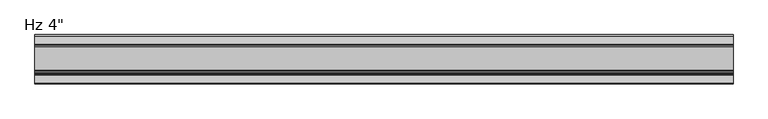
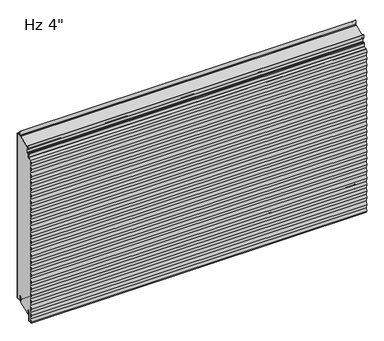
"""IFC4 building model written with IfcOpenShell, lengths in millimetres: plate geometry."""

from ifc_helpers import new_model, si_unit, point, frame, frame_2d, origin, place, context, project, spatial, polyline, circle_curve, ellipse_curve, trimmed, segment, composite_curve, outline, extrude, source, transform, mapped, element, save
from ifc_brep_helpers import plane_surface, cylinder_surface, revolved_surface, extruded_surface, advanced_brep


def plate_8af9aa11(model_context):
    return source(origin(), model_context, "Body", "SolidModel", [
        extrude(outline(composite_curve([segment(trimmed(circle_curve(frame_2d((-21.43125, 19.05)), 4.96875), [point((-16.4625, 19.05))], [point((-26.4, 19.05))], True, "CARTESIAN"), True, "CONTINUOUS"), segment(polyline([(-26.4, 19.05), (-26.4, -3.1323422), (-74.6157227, -23.01875), (-76.2, -23.01875), (-76.2, -13.5080174), (-76.99375, -13.5080174), (-76.7875, -11.9205174)]), True, "CONTINUOUS"), segment(trimmed(circle_curve(frame_2d((-81.75625, -11.9205174)), 4.96875), [point((-76.7875, -11.9205174))], [point((-86.725, -11.9205174))], True, "CARTESIAN"), True, "CONTINUOUS"), segment(polyline([(-86.725, -11.9205174), (-86.725, -50.1038221)]), True, "CONTINUOUS"), segment(trimmed(circle_curve(frame_2d((-88.10625, -50.1038221)), 1.38125), [point((-86.725, -50.1038221))], [point((-88.033961, -51.4831791))], False, "CARTESIAN"), True, "CONTINUOUS"), segment(polyline([(-88.033961, -51.4831791), (-101.2062471, -52.1735094), (-101.7378194, -48.8511825), (-99.2994194, -33.6111825), (-101.7378194, -18.3711825), (-99.2994194, -3.1311825), (-101.7378194, 12.1088175), (-99.2994194, 27.3488175), (-101.7378194, 42.5888175), (-99.2994194, 57.8288175), (-101.7378194, 73.0688175), (-99.2994194, 88.3088175), (-101.7378194, 103.5488175), (-99.2994194, 118.7888175), (-101.7378194, 134.0288175), (-99.2994194, 149.2688175), (-101.7378194, 164.5088175), (-99.2994194, 179.7488175), (-101.7378194, 194.9888175), (-99.2994194, 210.2288175), (-101.7378194, 225.4688175), (-99.2994194, 240.7088175), (-101.7378194, 255.9488175), (-99.2994194, 271.1888175), (-101.7378194, 286.4288175), (-99.2994194, 301.6688175), (-101.7378194, 316.9088175), (-99.2994194, 332.1488175), (-101.7378194, 347.3888175), (-99.2994194, 362.6288175), (-101.7378194, 377.8688175), (-99.2994194, 393.1088175), (-101.7378194, 408.3488175), (-99.2994194, 423.5888175), (-101.7378194, 438.8288175), (-99.2994194, 454.0688175), (-101.7378194, 469.3088175), (-99.2994194, 484.5488175), (-101.7378194, 499.7888175), (-99.2994194, 515.0288175), (-101.7378194, 530.2688175), (-99.2994194, 545.5088175), (-101.7378194, 560.7488175), (-99.2994194, 575.9888175), (-101.7378194, 591.2288175), (-99.2994194, 606.4688175), (-101.7378194, 621.7088175), (-99.2994194, 636.9488175), (-101.7378194, 652.1888175), (-99.2994194, 667.4288175), (-101.7378194, 682.6688175), (-99.7326745, 695.2009726), (-85.5895807, 695.9421807)]), True, "CONTINUOUS"), segment(trimmed(circle_curve(frame_2d((-85.725, 698.5261347)), 2.5875), [point((-85.5895807, 695.9421807))], [point((-83.1375, 698.5261347))], True, "CARTESIAN"), True, "CONTINUOUS"), segment(polyline([(-83.1375, 698.5261347), (-83.1375, 712.6824411)]), True, "CONTINUOUS"), segment(trimmed(circle_curve(frame_2d((-81.75625, 712.6824411)), 1.38125), [point((-83.1375, 712.6824411))], [point((-81.828539, 714.0617981))], False, "CARTESIAN"), True, "CONTINUOUS"), segment(polyline([(-81.828539, 714.0617981), (-76.0645807, 714.3638744)]), True, "CONTINUOUS"), segment(trimmed(circle_curve(frame_2d((-76.2, 716.9478283)), 2.5875), [point((-76.0645807, 714.3638744))], [point((-73.6125, 716.9478283))], True, "CARTESIAN"), True, "CONTINUOUS"), segment(polyline([(-73.6125, 716.9478283), (-73.6125, 739.3892934), (-24.9057308, 760.20625), (-2.38125, 760.20625)]), True, "CONTINUOUS"), segment(trimmed(circle_curve(frame_2d((-2.38125, 758.825)), 1.38125), [point((-2.38125, 760.20625))], [point((-1.0, 758.825))], False, "CARTESIAN"), True, "CONTINUOUS"), segment(polyline([(-1.0, 758.825), (-1.0, 3.175)]), True, "CONTINUOUS"), segment(trimmed(circle_curve(frame_2d((-2.38125, 3.175)), 1.38125), [point((-1.0, 3.175))], [point((-2.38125, 1.79375))], False, "CARTESIAN"), True, "CONTINUOUS"), segment(polyline([(-2.38125, 1.79375), (-15.08125, 1.79375)]), True, "CONTINUOUS"), segment(trimmed(circle_curve(frame_2d((-15.08125, 3.175)), 1.38125), [point((-15.08125, 1.79375))], [point((-16.4625, 3.175))], False, "CARTESIAN"), True, "CONTINUOUS"), segment(polyline([(-16.4625, 3.175), (-16.4625, 19.05)]), True, "CONTINUOUS")], self_intersect=False)), frame((-730.0, 0.0, 0.0), z_axis=(1.0, 0.0, 0.0), x_axis=(0.0, 1.0, 0.0)), (0.0, 0.0, 1.0), 1460.0),
        extrude(outline(composite_curve([segment(polyline([(-25.4, 0.79375), (-26.4, 0.79375), (-26.4, 19.05)]), True, "CONTINUOUS"), segment(trimmed(circle_curve(frame_2d((-21.43125, 19.05)), 4.96875), [point((-26.4, 19.05))], [point((-16.4625, 19.05))], False, "CARTESIAN"), True, "CONTINUOUS"), segment(polyline([(-16.4625, 19.05), (-16.4625, 3.175)]), True, "CONTINUOUS"), segment(trimmed(circle_curve(frame_2d((-15.08125, 3.175)), 1.38125), [point((-16.4625, 3.175))], [point((-15.08125, 1.79375))], True, "CARTESIAN"), True, "CONTINUOUS"), segment(polyline([(-15.08125, 1.79375), (-2.38125, 1.79375)]), True, "CONTINUOUS"), segment(trimmed(circle_curve(frame_2d((-2.38125, 3.175)), 1.38125), [point((-2.38125, 1.79375))], [point((-1.0, 3.175))], True, "CARTESIAN"), True, "CONTINUOUS"), segment(polyline([(-1.0, 3.175), (-1.0, 758.825)]), True, "CONTINUOUS"), segment(trimmed(circle_curve(frame_2d((-2.38125, 758.825)), 1.38125), [point((-1.0, 758.825))], [point((-2.38125, 760.20625))], True, "CARTESIAN"), True, "CONTINUOUS"), segment(polyline([(-2.38125, 760.20625), (-19.446875, 760.20625)]), True, "CONTINUOUS"), segment(trimmed(circle_curve(frame_2d((-19.446875, 762.79375)), 2.5875), [point((-19.446875, 760.20625))], [point((-22.034375, 762.79375))], False, "CARTESIAN"), True, "CONTINUOUS"), segment(polyline([(-22.034375, 762.79375), (-22.034375, 780.25625), (-21.034375, 780.25625), (-21.034375, 762.79375)]), True, "CONTINUOUS"), segment(trimmed(circle_curve(frame_2d((-19.446875, 762.79375)), 1.5875), [point((-21.034375, 762.79375))], [point((-19.446875, 761.20625))], True, "CARTESIAN"), True, "CONTINUOUS"), segment(polyline([(-19.446875, 761.20625), (-2.38125, 761.20625)]), True, "CONTINUOUS"), segment(trimmed(circle_curve(frame_2d((-2.38125, 758.825)), 2.38125), [point((-2.38125, 761.20625))], [point((0.0, 758.825))], False, "CARTESIAN"), True, "CONTINUOUS"), segment(polyline([(0.0, 758.825), (0.0, 3.175)]), True, "CONTINUOUS"), segment(trimmed(circle_curve(frame_2d((-2.38125, 3.175)), 2.38125), [point((0.0, 3.175))], [point((-2.38125, 0.79375))], False, "CARTESIAN"), True, "CONTINUOUS"), segment(polyline([(-2.38125, 0.79375), (-15.08125, 0.79375)]), True, "CONTINUOUS"), segment(trimmed(circle_curve(frame_2d((-15.08125, 3.175)), 2.38125), [point((-15.08125, 0.79375))], [point((-17.4625, 3.175))], False, "CARTESIAN"), True, "CONTINUOUS"), segment(polyline([(-17.4625, 3.175), (-17.4625, 19.05)]), True, "CONTINUOUS"), segment(trimmed(circle_curve(frame_2d((-21.43125, 19.05)), 3.96875), [point((-17.4625, 19.05))], [point((-25.4, 19.05))], True, "CARTESIAN"), True, "CONTINUOUS"), segment(polyline([(-25.4, 19.05), (-25.4, 0.79375)]), True, "CONTINUOUS")], self_intersect=False)), frame((-730.0, 0.0, 0.0), z_axis=(1.0, 0.0, 0.0), x_axis=(0.0, 1.0, 0.0)), (0.0, 0.0, 1.0), 1460.0),
        advanced_brep(
        [(-730.0, -76.2, -23.2314549), (-730.0, -77.7875, -23.2314549), (-730.0, -77.7875, -11.9205174), (-730.0, -85.725, -11.9205174), (-730.0, -85.725, -50.1038221), (-730.0, -87.981625, -52.4818086), (-730.0, -102.1543553, -53.22457), (-730.0, -102.8509395, -48.8709186), (-730.0, -100.4125395, -33.6309186), (-730.0, -102.8509395, -18.3909186), (-730.0, -100.4125395, -3.1509186), (-730.0, -102.8509395, 12.0890814), (-730.0, -100.4125395, 27.3290814), (-730.0, -102.8509395, 42.5690814), (-730.0, -100.4125395, 57.8090814), (-730.0, -102.8509395, 73.0490814), (-730.0, -100.4125395, 88.2890814), (-730.0, -102.8509395, 103.5290814), (-730.0, -100.4125395, 118.7690814), (-730.0, -102.8509395, 134.0090814), (-730.0, -100.4125395, 149.2490814), (-730.0, -102.8509395, 164.4890814), (-730.0, -100.4125395, 179.7290814), (-730.0, -102.8509395, 194.9690814), (-730.0, -100.4125395, 210.2090814), (-730.0, -102.8509395, 225.4490814), (-730.0, -100.4125395, 240.6890814), (-730.0, -102.8509395, 255.9290814), (-730.0, -100.4125395, 271.1690814), (-730.0, -102.8509395, 286.4090814), (-730.0, -100.4125395, 301.6490814), (-730.0, -102.8509395, 316.8890814), (-730.0, -100.4125395, 332.1290814), (-730.0, -102.8509395, 347.3690814), (-730.0, -100.4125395, 362.6090814), (-730.0, -102.8509395, 377.8490814), (-730.0, -100.4125395, 393.0890814), (-730.0, -102.8509395, 408.3290814), (-730.0, -100.4125395, 423.5690814), (-730.0, -102.8509395, 438.8090814), (-730.0, -100.4125395, 454.0490814), (-730.0, -102.8509395, 469.2890814), (-730.0, -100.4125395, 484.5290814), (-730.0, -102.8509395, 499.7690814), (-730.0, -100.4125395, 515.0090814), (-730.0, -102.8509395, 530.2490814), (-730.0, -100.4125395, 545.4890814), (-730.0, -102.8509395, 560.7290814), (-730.0, -100.4125395, 575.9690814), (-730.0, -102.8509395, 591.2090814), (-730.0, -100.4125395, 606.4490814), (-730.0, -102.8509395, 621.6890814), (-730.0, -100.4125395, 636.9290814), (-730.0, -102.8509395, 652.1690814), (-730.0, -100.4125395, 667.4090814), (-730.0, -102.8428368, 682.5984395), (-730.0, -100.674106, 696.1530066), (-730.0, -85.6419167, 696.9408103), (-730.0, -84.1375, 698.5261347), (-730.0, -84.1375, 712.6824411), (-730.0, -81.880875, 715.0604276), (-730.0, -76.1169167, 715.3625039), (-730.0, -74.6125, 716.9478283), (-730.0, -74.6125, 731.8232326), (-730.0, -76.2, 733.4107326), (-730.0, -80.3671875, 733.4107326), (-730.0, -82.7484375, 735.7919826), (-730.0, -82.7484375, 750.2836032), (-730.0, -80.9546875, 750.2836032), (-730.0, -80.9546875, 740.5544826), (-730.0, -81.7484375, 740.5544826), (-730.0, -81.7484375, 735.7919826), (-730.0, -80.3671875, 734.4107326), (-730.0, -76.2, 734.4107326), (-730.0, -73.6125, 731.8232326), (-730.0, -73.6125, 716.9478283), (-730.0, -76.0645807, 714.3638744), (-730.0, -81.828539, 714.0617981), (-730.0, -83.1375, 712.6824411), (-730.0, -83.1375, 698.5261347), (-730.0, -85.5895807, 695.9421807), (-730.0, -99.8143976, 695.1966897), (-730.0, -101.8301177, 682.5984395), (-730.0, -99.3998204, 667.4090814), (-730.0, -101.8382204, 652.1690814), (-730.0, -99.3998204, 636.9290814), (-730.0, -101.8382204, 621.6890814), (-730.0, -99.3998204, 606.4490814), (-730.0, -101.8382204, 591.2090814), (-730.0, -99.3998204, 575.9690814), (-730.0, -101.8382204, 560.7290814), (-730.0, -99.3998204, 545.4890814), (-730.0, -101.8382204, 530.2490814), (-730.0, -99.3998204, 515.0090814), (-730.0, -101.8382204, 499.7690814), (-730.0, -99.3998204, 484.5290814), (-730.0, -101.8382204, 469.2890814), (-730.0, -99.3998204, 454.0490814), (-730.0, -101.8382204, 438.8090814), (-730.0, -99.3998204, 423.5690814), (-730.0, -101.8382204, 408.3290814), (-730.0, -99.3998204, 393.0890814), (-730.0, -101.8382204, 377.8490814), (-730.0, -99.3998204, 362.6090814), (-730.0, -101.8382204, 347.3690814), (-730.0, -99.3998204, 332.1290814), (-730.0, -101.8382204, 316.8890814), (-730.0, -99.3998204, 301.6490814), (-730.0, -101.8382204, 286.4090814), (-730.0, -99.3998204, 271.1690814), (-730.0, -101.8382204, 255.9290814), (-730.0, -99.3998204, 240.6890814), (-730.0, -101.8382204, 225.4490814), (-730.0, -99.3998204, 210.2090814), (-730.0, -101.8382204, 194.9690814), (-730.0, -99.3998204, 179.7290814), (-730.0, -101.8382204, 164.4890814), (-730.0, -99.3998204, 149.2490814), (-730.0, -101.8382204, 134.0090814), (-730.0, -99.3998204, 118.7690814), (-730.0, -101.8382204, 103.5290814), (-730.0, -99.3998204, 88.2890814), (-730.0, -101.8382204, 73.0490814), (-730.0, -99.3998204, 57.8090814), (-730.0, -101.8382204, 42.5690814), (-730.0, -99.3998204, 27.3290814), (-730.0, -101.8382204, 12.0890814), (-730.0, -99.3998204, -3.1509186), (-730.0, -101.8382204, -18.3909186), (-730.0, -99.3998204, -33.6309186), (-730.0, -101.8382204, -48.8709186), (-730.0, -101.3089447, -52.1788915), (-730.0, -88.033961, -51.4831791), (-730.0, -86.725, -50.1038221), (-730.0, -86.725, -11.9205174), (-730.0, -76.7875, -11.9205174), (-730.0, -76.99375, -13.5080174), (-730.0, -76.2, -13.5080174), (730.0, -76.2, -23.2314549), (730.0, -76.2, -13.5080174), (730.0, -76.99375, -13.5080174), (730.0, -76.7875, -11.9205174), (730.0, -86.725, -11.9205174), (730.0, -86.725, -50.1038221), (730.0, -88.033961, -51.4831791), (730.0, -101.3089447, -52.1788915), (730.0, -101.8382204, -48.8709186), (730.0, -99.3998204, -33.6309186), (730.0, -101.8382204, -18.3909186), (730.0, -99.3998204, -3.1509186), (730.0, -101.8382204, 12.0890814), (730.0, -99.3998204, 27.3290814), (730.0, -101.8382204, 42.5690814), (730.0, -99.3998204, 57.8090814), (730.0, -101.8382204, 73.0490814), (730.0, -99.3998204, 88.2890814), (730.0, -101.8382204, 103.5290814), (730.0, -99.3998204, 118.7690814), (730.0, -101.8382204, 134.0090814), (730.0, -99.3998204, 149.2490814), (730.0, -101.8382204, 164.4890814), (730.0, -99.3998204, 179.7290814), (730.0, -101.8382204, 194.9690814), (730.0, -99.3998204, 210.2090814), (730.0, -101.8382204, 225.4490814), (730.0, -99.3998204, 240.6890814), (730.0, -101.8382204, 255.9290814), (730.0, -99.3998204, 271.1690814), (730.0, -101.8382204, 286.4090814), (730.0, -99.3998204, 301.6490814), (730.0, -101.8382204, 316.8890814), (730.0, -99.3998204, 332.1290814), (730.0, -101.8382204, 347.3690814), (730.0, -99.3998204, 362.6090814), (730.0, -101.8382204, 377.8490814), (730.0, -99.3998204, 393.0890814), (730.0, -101.8382204, 408.3290814), (730.0, -99.3998204, 423.5690814), (730.0, -101.8382204, 438.8090814), (730.0, -99.3998204, 454.0490814), (730.0, -101.8382204, 469.2890814), (730.0, -99.3998204, 484.5290814), (730.0, -101.8382204, 499.7690814), (730.0, -99.3998204, 515.0090814), (730.0, -101.8382204, 530.2490814), (730.0, -99.3998204, 545.4890814), (730.0, -101.8382204, 560.7290814), (730.0, -99.3998204, 575.9690814), (730.0, -101.8382204, 591.2090814), (730.0, -99.3998204, 606.4490814), (730.0, -101.8382204, 621.6890814), (730.0, -99.3998204, 636.9290814), (730.0, -101.8382204, 652.1690814), (730.0, -99.3998204, 667.4090814), (730.0, -101.8301177, 682.5984395), (730.0, -99.8143976, 695.1966897), (730.0, -85.5895807, 695.9421807), (730.0, -83.1375, 698.5261347), (730.0, -83.1375, 712.6824411), (730.0, -81.828539, 714.0617981), (730.0, -76.0645807, 714.3638744), (730.0, -73.6125, 716.9478283), (730.0, -73.6125, 731.8232326), (730.0, -76.2, 734.4107326), (730.0, -80.3671875, 734.4107326), (730.0, -81.7484375, 735.7919826), (730.0, -81.7484375, 740.5544826), (730.0, -80.9546875, 740.5544826), (730.0, -80.9546875, 750.2836032), (730.0, -82.7484375, 750.2836032), (730.0, -82.7484375, 735.7919826), (730.0, -80.3671875, 733.4107326), (730.0, -76.2, 733.4107326), (730.0, -74.6125, 731.8232326), (730.0, -74.6125, 716.9478283), (730.0, -76.1169167, 715.3625039), (730.0, -81.880875, 715.0604276), (730.0, -84.1375, 712.6824411), (730.0, -84.1375, 698.5261347), (730.0, -85.6419167, 696.9408103), (730.0, -100.674106, 696.1530066), (730.0, -102.8428368, 682.5984395), (730.0, -100.4125395, 667.4090814), (730.0, -102.8509395, 652.1690814), (730.0, -100.4125395, 636.9290814), (730.0, -102.8509395, 621.6890814), (730.0, -100.4125395, 606.4490814), (730.0, -102.8509395, 591.2090814), (730.0, -100.4125395, 575.9690814), (730.0, -102.8509395, 560.7290814), (730.0, -100.4125395, 545.4890814), (730.0, -102.8509395, 530.2490814), (730.0, -100.4125395, 515.0090814), (730.0, -102.8509395, 499.7690814), (730.0, -100.4125395, 484.5290814), (730.0, -102.8509395, 469.2890814), (730.0, -100.4125395, 454.0490814), (730.0, -102.8509395, 438.8090814), (730.0, -100.4125395, 423.5690814), (730.0, -102.8509395, 408.3290814), (730.0, -100.4125395, 393.0890814), (730.0, -102.8509395, 377.8490814), (730.0, -100.4125395, 362.6090814), (730.0, -102.8509395, 347.3690814), (730.0, -100.4125395, 332.1290814), (730.0, -102.8509395, 316.8890814), (730.0, -100.4125395, 301.6490814), (730.0, -102.8509395, 286.4090814), (730.0, -100.4125395, 271.1690814), (730.0, -102.8509395, 255.9290814), (730.0, -100.4125395, 240.6890814), (730.0, -102.8509395, 225.4490814), (730.0, -100.4125395, 210.2090814), (730.0, -102.8509395, 194.9690814), (730.0, -100.4125395, 179.7290814), (730.0, -102.8509395, 164.4890814), (730.0, -100.4125395, 149.2490814), (730.0, -102.8509395, 134.0090814), (730.0, -100.4125395, 118.7690814), (730.0, -102.8509395, 103.5290814), (730.0, -100.4125395, 88.2890814), (730.0, -102.8509395, 73.0490814), (730.0, -100.4125395, 57.8090814), (730.0, -102.8509395, 42.5690814), (730.0, -100.4125395, 27.3290814), (730.0, -102.8509395, 12.0890814), (730.0, -100.4125395, -3.1509186), (730.0, -102.8509395, -18.3909186), (730.0, -100.4125395, -33.6309186), (730.0, -102.8509395, -48.8709186), (730.0, -102.1543553, -53.22457), (730.0, -87.981625, -52.4818086), (730.0, -85.725, -50.1038221), (730.0, -85.725, -11.9205174), (730.0, -77.7875, -11.9205174), (730.0, -77.7875, -23.2314549)],
        [
            (0, 1, circle_curve(frame((-730.0, -76.99375, -23.2314549), z_axis=(-1.0, 0.0, 0.0), x_axis=(0.0, 0.0, -1.0)), 0.79375)),
            (1, 2),
            (2, 3, circle_curve(frame((-730.0, -81.75625, -11.9205174), z_axis=(1.0, 0.0, 0.0), x_axis=(0.0, 0.0, -1.0)), 3.96875)),
            (3, 4),
            (4, 5, circle_curve(frame((-730.0, -88.10625, -50.1038221), z_axis=(-1.0, 0.0, 0.0), x_axis=(0.0, 0.0, -1.0)), 2.38125)),
            (5, 6),
            (6, 7),
            (7, 8),
            (8, 9),
            (9, 10),
            (10, 11),
            (11, 12),
            (12, 13),
            (13, 14),
            (14, 15),
            (15, 16),
            (16, 17),
            (17, 18),
            (18, 19),
            (19, 20),
            (20, 21),
            (21, 22),
            (22, 23),
            (23, 24),
            (24, 25),
            (25, 26),
            (26, 27),
            (27, 28),
            (28, 29),
            (29, 30),
            (30, 31),
            (31, 32),
            (32, 33),
            (33, 34),
            (34, 35),
            (35, 36),
            (36, 37),
            (37, 38),
            (38, 39),
            (39, 40),
            (40, 41),
            (41, 42),
            (42, 43),
            (43, 44),
            (44, 45),
            (45, 46),
            (46, 47),
            (47, 48),
            (48, 49),
            (49, 50),
            (50, 51),
            (51, 52),
            (52, 53),
            (53, 54),
            (54, 55),
            (55, 56),
            (56, 57),
            (57, 58, circle_curve(frame((-730.0, -85.725, 698.5261347), z_axis=(1.0, 0.0, 0.0), x_axis=(0.0, 0.0, -1.0)), 1.5875)),
            (58, 59),
            (59, 60, circle_curve(frame((-730.0, -81.75625, 712.6824411), z_axis=(-1.0, 0.0, 0.0), x_axis=(0.0, 0.0, -1.0)), 2.38125)),
            (60, 61),
            (61, 62, circle_curve(frame((-730.0, -76.2, 716.9478283), z_axis=(1.0, 0.0, 0.0), x_axis=(0.0, 0.0, -1.0)), 1.5875)),
            (62, 63),
            (63, 64, circle_curve(frame((-730.0, -76.2, 731.8232326), z_axis=(1.0, 0.0, 0.0), x_axis=(0.0, 0.0, -1.0)), 1.5875)),
            (64, 65),
            (65, 66, circle_curve(frame((-730.0, -80.3671875, 735.7919826), z_axis=(-1.0, 0.0, 0.0), x_axis=(0.0, 0.0, -1.0)), 2.38125)),
            (66, 67),
            (67, 68, ellipse_curve(frame((-730.0, -81.8515625, 750.2836032), z_axis=(-1.0, 0.0, 0.0), x_axis=(0.0, 1.0, 0.0)), 0.896875, 0.7852275)),
            (68, 69),
            (69, 70),
            (70, 71),
            (71, 72, circle_curve(frame((-730.0, -80.3671875, 735.7919826), z_axis=(1.0, 0.0, 0.0), x_axis=(0.0, 0.0, -1.0)), 1.38125)),
            (72, 73),
            (73, 74, circle_curve(frame((-730.0, -76.2, 731.8232326), z_axis=(-1.0, 0.0, 0.0), x_axis=(0.0, 0.0, -1.0)), 2.5875)),
            (74, 75),
            (75, 76, circle_curve(frame((-730.0, -76.2, 716.9478283), z_axis=(-1.0, 0.0, 0.0), x_axis=(0.0, 0.0, -1.0)), 2.5875)),
            (76, 77),
            (77, 78, circle_curve(frame((-730.0, -81.75625, 712.6824411), z_axis=(1.0, 0.0, 0.0), x_axis=(0.0, 0.0, -1.0)), 1.38125)),
            (78, 79),
            (79, 80, circle_curve(frame((-730.0, -85.725, 698.5261347), z_axis=(-1.0, 0.0, 0.0), x_axis=(0.0, 0.0, -1.0)), 2.5875)),
            (80, 81),
            (81, 82),
            (82, 83),
            (83, 84),
            (84, 85),
            (85, 86),
            (86, 87),
            (87, 88),
            (88, 89),
            (89, 90),
            (90, 91),
            (91, 92),
            (92, 93),
            (93, 94),
            (94, 95),
            (95, 96),
            (96, 97),
            (97, 98),
            (98, 99),
            (99, 100),
            (100, 101),
            (101, 102),
            (102, 103),
            (103, 104),
            (104, 105),
            (105, 106),
            (106, 107),
            (107, 108),
            (108, 109),
            (109, 110),
            (110, 111),
            (111, 112),
            (112, 113),
            (113, 114),
            (114, 115),
            (115, 116),
            (116, 117),
            (117, 118),
            (118, 119),
            (119, 120),
            (120, 121),
            (121, 122),
            (122, 123),
            (123, 124),
            (124, 125),
            (125, 126),
            (126, 127),
            (127, 128),
            (128, 129),
            (129, 130),
            (130, 131),
            (131, 132),
            (132, 133, circle_curve(frame((-730.0, -88.10625, -50.1038221), z_axis=(1.0, 0.0, 0.0), x_axis=(0.0, 0.0, -1.0)), 1.38125)),
            (133, 134),
            (134, 135, circle_curve(frame((-730.0, -81.75625, -11.9205174), z_axis=(-1.0, 0.0, 0.0), x_axis=(0.0, 0.0, -1.0)), 4.96875)),
            (135, 136),
            (136, 137),
            (137, 0),
            (138, 139),
            (139, 140),
            (140, 141),
            (141, 142, circle_curve(frame((730.0, -81.75625, -11.9205174), z_axis=(1.0, 0.0, 0.0), x_axis=(0.0, 0.0, -1.0)), 4.96875)),
            (142, 143),
            (143, 144, circle_curve(frame((730.0, -88.10625, -50.1038221), z_axis=(-1.0, 0.0, 0.0), x_axis=(0.0, 0.0, -1.0)), 1.38125)),
            (144, 145),
            (145, 146),
            (146, 147),
            (147, 148),
            (148, 149),
            (149, 150),
            (150, 151),
            (151, 152),
            (152, 153),
            (153, 154),
            (154, 155),
            (155, 156),
            (156, 157),
            (157, 158),
            (158, 159),
            (159, 160),
            (160, 161),
            (161, 162),
            (162, 163),
            (163, 164),
            (164, 165),
            (165, 166),
            (166, 167),
            (167, 168),
            (168, 169),
            (169, 170),
            (170, 171),
            (171, 172),
            (172, 173),
            (173, 174),
            (174, 175),
            (175, 176),
            (176, 177),
            (177, 178),
            (178, 179),
            (179, 180),
            (180, 181),
            (181, 182),
            (182, 183),
            (183, 184),
            (184, 185),
            (185, 186),
            (186, 187),
            (187, 188),
            (188, 189),
            (189, 190),
            (190, 191),
            (191, 192),
            (192, 193),
            (193, 194),
            (194, 195),
            (195, 196),
            (196, 197, circle_curve(frame((730.0, -85.725, 698.5261347), z_axis=(1.0, 0.0, 0.0), x_axis=(0.0, 0.0, -1.0)), 2.5875)),
            (197, 198),
            (198, 199, circle_curve(frame((730.0, -81.75625, 712.6824411), z_axis=(-1.0, 0.0, 0.0), x_axis=(0.0, 0.0, -1.0)), 1.38125)),
            (199, 200),
            (200, 201, circle_curve(frame((730.0, -76.2, 716.9478283), z_axis=(1.0, 0.0, 0.0), x_axis=(0.0, 0.0, -1.0)), 2.5875)),
            (201, 202),
            (202, 203, circle_curve(frame((730.0, -76.2, 731.8232326), z_axis=(1.0, 0.0, 0.0), x_axis=(0.0, 0.0, -1.0)), 2.5875)),
            (203, 204),
            (204, 205, circle_curve(frame((730.0, -80.3671875, 735.7919826), z_axis=(-1.0, 0.0, 0.0), x_axis=(0.0, 0.0, -1.0)), 1.38125)),
            (205, 206),
            (206, 207),
            (207, 208),
            (208, 209, ellipse_curve(frame((730.0, -81.8515625, 750.2836032), z_axis=(1.0, 0.0, 0.0), x_axis=(0.0, 1.0, 0.0)), 0.896875, 0.7852275)),
            (209, 210),
            (210, 211, circle_curve(frame((730.0, -80.3671875, 735.7919826), z_axis=(1.0, 0.0, 0.0), x_axis=(0.0, 0.0, -1.0)), 2.38125)),
            (211, 212),
            (212, 213, circle_curve(frame((730.0, -76.2, 731.8232326), z_axis=(-1.0, 0.0, 0.0), x_axis=(0.0, 0.0, -1.0)), 1.5875)),
            (213, 214),
            (214, 215, circle_curve(frame((730.0, -76.2, 716.9478283), z_axis=(-1.0, 0.0, 0.0), x_axis=(0.0, 0.0, -1.0)), 1.5875)),
            (215, 216),
            (216, 217, circle_curve(frame((730.0, -81.75625, 712.6824411), z_axis=(1.0, 0.0, 0.0), x_axis=(0.0, 0.0, -1.0)), 2.38125)),
            (217, 218),
            (218, 219, circle_curve(frame((730.0, -85.725, 698.5261347), z_axis=(-1.0, 0.0, 0.0), x_axis=(0.0, 0.0, -1.0)), 1.5875)),
            (219, 220),
            (220, 221),
            (221, 222),
            (222, 223),
            (223, 224),
            (224, 225),
            (225, 226),
            (226, 227),
            (227, 228),
            (228, 229),
            (229, 230),
            (230, 231),
            (231, 232),
            (232, 233),
            (233, 234),
            (234, 235),
            (235, 236),
            (236, 237),
            (237, 238),
            (238, 239),
            (239, 240),
            (240, 241),
            (241, 242),
            (242, 243),
            (243, 244),
            (244, 245),
            (245, 246),
            (246, 247),
            (247, 248),
            (248, 249),
            (249, 250),
            (250, 251),
            (251, 252),
            (252, 253),
            (253, 254),
            (254, 255),
            (255, 256),
            (256, 257),
            (257, 258),
            (258, 259),
            (259, 260),
            (260, 261),
            (261, 262),
            (262, 263),
            (263, 264),
            (264, 265),
            (265, 266),
            (266, 267),
            (267, 268),
            (268, 269),
            (269, 270),
            (270, 271),
            (271, 272, circle_curve(frame((730.0, -88.10625, -50.1038221), z_axis=(1.0, 0.0, 0.0), x_axis=(0.0, 0.0, -1.0)), 2.38125)),
            (272, 273),
            (273, 274, circle_curve(frame((730.0, -81.75625, -11.9205174), z_axis=(-1.0, 0.0, 0.0), x_axis=(0.0, 0.0, -1.0)), 3.96875)),
            (274, 275),
            (275, 138, circle_curve(frame((730.0, -76.99375, -23.2314549), z_axis=(1.0, 0.0, 0.0), x_axis=(0.0, 0.0, -1.0)), 0.79375)),
            (118, 158),
            (157, 119),
            (156, 120),
            (155, 121),
            (131, 145),
            (144, 132),
            (143, 133),
            (142, 134),
            (141, 135),
            (136, 140),
            (139, 137),
            (69, 207),
            (206, 70),
            (68, 208),
            (67, 209),
            (56, 220),
            (219, 57),
            (80, 196),
            (195, 81),
            (54, 222),
            (221, 55),
            (82, 194),
            (193, 83),
            (192, 84),
            (191, 85),
            (21, 255),
            (254, 22),
            (253, 23),
            (252, 24),
            (251, 25),
            (250, 26),
            (249, 27),
            (102, 174),
            (173, 103),
            (172, 104),
            (171, 105),
            (170, 106),
            (169, 107),
            (168, 108),
            (167, 109),
            (166, 110),
            (248, 28),
            (247, 29),
            (246, 30),
            (52, 224),
            (223, 53),
            (165, 111),
            (164, 112),
            (163, 113),
            (162, 114),
            (161, 115),
            (160, 116),
            (159, 117),
            (19, 257),
            (256, 20),
            (51, 225),
            (50, 226),
            (190, 86),
            (48, 228),
            (227, 49),
            (46, 230),
            (229, 47),
            (44, 232),
            (231, 45),
            (93, 183),
            (182, 94),
            (43, 233),
            (91, 185),
            (184, 92),
            (89, 187),
            (186, 90),
            (87, 189),
            (188, 88),
            (42, 234),
            (40, 236),
            (235, 41),
            (38, 238),
            (237, 39),
            (36, 240),
            (239, 37),
            (101, 175),
            (35, 241),
            (99, 177),
            (176, 100),
            (97, 179),
            (178, 98),
            (95, 181),
            (180, 96),
            (34, 242),
            (32, 244),
            (243, 33),
            (245, 31),
            (18, 258),
            (16, 260),
            (259, 17),
            (14, 262),
            (261, 15),
            (12, 264),
            (263, 13),
            (10, 266),
            (265, 11),
            (8, 268),
            (267, 9),
            (6, 270),
            (269, 7),
            (129, 147),
            (146, 130),
            (127, 149),
            (148, 128),
            (125, 151),
            (150, 126),
            (123, 153),
            (152, 124),
            (154, 122),
            (79, 197),
            (77, 199),
            (198, 78),
            (75, 201),
            (200, 76),
            (71, 205),
            (204, 72),
            (73, 203),
            (202, 74),
            (66, 210),
            (64, 212),
            (211, 65),
            (62, 214),
            (213, 63),
            (60, 216),
            (215, 61),
            (58, 218),
            (217, 59),
            (5, 271),
            (3, 273),
            (272, 4),
            (1, 275),
            (274, 2),
            (138, 0),
        ],
        [
            plane_surface(frame((-730.0, -101.6, 381.0), z_axis=(-1.0, 0.0, 0.0), x_axis=(0.0, -1.0, 0.0))),
            plane_surface(frame((730.0, -101.6, 381.0), z_axis=(1.0, 0.0, 0.0), x_axis=(0.0, -1.0, 0.0))),
            plane_surface(frame((-730.0, -99.3998204, 118.7690814), z_axis=(0.0, 0.9874406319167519, 0.1579905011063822), x_axis=(1.0, 0.0, 0.0))),
            plane_surface(frame((-730.0, -101.8382204, 103.5290814), z_axis=(0.0, 0.9874406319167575, -0.15799050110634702), x_axis=(1.0, 0.0, 0.0))),
            plane_surface(frame((-730.0, -99.3998204, 88.2890814), z_axis=(0.0, 0.987440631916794, 0.1579905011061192), x_axis=(1.0, 0.0, 0.0))),
            plane_surface(frame((-730.0, -88.033961, -51.4831791), z_axis=(0.0, -0.05233595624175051, 0.9986295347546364), x_axis=(1.0, 0.0, 0.0))),
            revolved_surface(polyline([(730.0, -88.10625, -51.485072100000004), (-730.0, -88.10625, -51.485072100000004)]), (-730.0, -88.10625, -50.1038221), (1.0, 0.0, 0.0)),
            plane_surface(frame((-730.0, -86.725, -11.9205174), z_axis=(0.0, -1.0, 0.0), x_axis=(1.0, 0.0, 0.0))),
            cylinder_surface(frame((-730.0, -81.75625, -11.9205174), z_axis=(-1.0, 0.0, 0.0), x_axis=(0.0, 0.0, -1.0)), 4.96875),
            plane_surface(frame((-730.0, -76.2, -13.5080174), z_axis=(0.0, 0.0, 1.0), x_axis=(1.0, 0.0, 0.0))),
            plane_surface(frame((-730.0, -76.99375, -13.5080174), z_axis=(0.0, 0.9916655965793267, -0.12883844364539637), x_axis=(1.0, 0.0, 0.0))),
            plane_surface(frame((-730.0, -81.7484375, 740.5544826), z_axis=(0.0, 0.0, -1.0), x_axis=(1.0, 0.0, 0.0))),
            plane_surface(frame((-730.0, -80.9546875, 740.5544826), z_axis=(0.0, 1.0, 0.0), x_axis=(1.0, 0.0, 0.0))),
            extruded_surface(trimmed(ellipse_curve(frame((-730.0, -81.8515625, 750.2836032), z_axis=(1.0, 0.0, 0.0), x_axis=(0.0, 1.0, 0.0)), 0.896875, 0.7852275), [point((-730.0, -80.9546875, 750.2836032))], [point((-730.0, -82.7484375, 750.2836032))], True, "CARTESIAN"), (1460.0, 0.0, 0.0), 1460.0),
            plane_surface(frame((-730.0, -85.6419167, 696.9408103), z_axis=(0.0, -0.052335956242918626, 0.9986295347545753), x_axis=(1.0, 0.0, 0.0))),
            plane_surface(frame((-730.0, -99.8143976, 695.1966897), z_axis=(0.0, 0.05233595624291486, -0.9986295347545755), x_axis=(1.0, 0.0, 0.0))),
            plane_surface(frame((-730.0, -102.8428368, 682.5984395), z_axis=(0.0, -0.9874406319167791, -0.15799050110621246), x_axis=(1.0, 0.0, 0.0))),
            plane_surface(frame((-730.0, -99.3998204, 667.4090814), z_axis=(0.0, 0.9874406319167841, 0.15799050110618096), x_axis=(1.0, 0.0, 0.0))),
            plane_surface(frame((-730.0, -101.8382204, 652.1690814), z_axis=(0.0, 0.9874406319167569, -0.15799050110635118), x_axis=(1.0, 0.0, 0.0))),
            plane_surface(frame((-730.0, -99.3998204, 636.9290814), z_axis=(0.0, 0.987440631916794, 0.15799050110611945), x_axis=(1.0, 0.0, 0.0))),
            plane_surface(frame((-730.0, -100.4125395, 179.7290814), z_axis=(0.0, -0.9874406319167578, 0.15799050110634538), x_axis=(1.0, 0.0, 0.0))),
            plane_surface(frame((-730.0, -102.8509395, 194.9690814), z_axis=(0.0, -0.9874406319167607, -0.15799050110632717), x_axis=(1.0, 0.0, 0.0))),
            plane_surface(frame((-730.0, -100.4125395, 210.2090814), z_axis=(0.0, -0.9874406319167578, 0.15799050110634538), x_axis=(1.0, 0.0, 0.0))),
            plane_surface(frame((-730.0, -102.8509395, 225.4490814), z_axis=(0.0, -0.9874406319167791, -0.15799050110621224), x_axis=(1.0, 0.0, 0.0))),
            plane_surface(frame((-730.0, -100.4125395, 240.6890814), z_axis=(0.0, -0.9874406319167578, 0.15799050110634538), x_axis=(1.0, 0.0, 0.0))),
            plane_surface(frame((-730.0, -102.8509395, 255.9290814), z_axis=(0.0, -0.9874406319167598, -0.15799050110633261), x_axis=(1.0, 0.0, 0.0))),
            plane_surface(frame((-730.0, -99.3998204, 362.6090814), z_axis=(0.0, 0.9874406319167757, 0.15799050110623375), x_axis=(1.0, 0.0, 0.0))),
            plane_surface(frame((-730.0, -101.8382204, 347.3690814), z_axis=(0.0, 0.9874406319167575, -0.15799050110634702), x_axis=(1.0, 0.0, 0.0))),
            plane_surface(frame((-730.0, -99.3998204, 332.1290814), z_axis=(0.0, 0.987440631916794, 0.1579905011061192), x_axis=(1.0, 0.0, 0.0))),
            plane_surface(frame((-730.0, -101.8382204, 316.8890814), z_axis=(0.0, 0.987440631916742, -0.15799050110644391), x_axis=(1.0, 0.0, 0.0))),
            plane_surface(frame((-730.0, -99.3998204, 301.6490814), z_axis=(0.0, 0.9874406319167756, 0.15799050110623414), x_axis=(1.0, 0.0, 0.0))),
            plane_surface(frame((-730.0, -101.8382204, 286.4090814), z_axis=(0.0, 0.9874406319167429, -0.15799050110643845), x_axis=(1.0, 0.0, 0.0))),
            plane_surface(frame((-730.0, -99.3998204, 271.1690814), z_axis=(0.0, 0.9874406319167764, 0.15799050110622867), x_axis=(1.0, 0.0, 0.0))),
            plane_surface(frame((-730.0, -101.8382204, 255.9290814), z_axis=(0.0, 0.9874406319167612, -0.1579905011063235), x_axis=(1.0, 0.0, 0.0))),
            plane_surface(frame((-730.0, -100.4125395, 271.1690814), z_axis=(0.0, -0.9874406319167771, 0.157990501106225), x_axis=(1.0, 0.0, 0.0))),
            plane_surface(frame((-730.0, -102.8509395, 286.4090814), z_axis=(0.0, -0.9874406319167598, -0.15799050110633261), x_axis=(1.0, 0.0, 0.0))),
            plane_surface(frame((-730.0, -100.4125395, 301.6490814), z_axis=(0.0, -0.9874406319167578, 0.15799050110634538), x_axis=(1.0, 0.0, 0.0))),
            plane_surface(frame((-730.0, -102.8509395, 652.1690814), z_axis=(0.0, -0.9874406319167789, -0.15799050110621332), x_axis=(1.0, 0.0, 0.0))),
            plane_surface(frame((-730.0, -100.4125395, 667.4090814), z_axis=(0.0, -0.9874406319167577, 0.15799050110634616), x_axis=(1.0, 0.0, 0.0))),
            plane_surface(frame((-730.0, -99.3998204, 240.6890814), z_axis=(0.0, 0.9874406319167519, 0.1579905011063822), x_axis=(1.0, 0.0, 0.0))),
            plane_surface(frame((-730.0, -101.8382204, 225.4490814), z_axis=(0.0, 0.9874406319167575, -0.15799050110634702), x_axis=(1.0, 0.0, 0.0))),
            plane_surface(frame((-730.0, -99.3998204, 210.2090814), z_axis=(0.0, 0.987440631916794, 0.1579905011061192), x_axis=(1.0, 0.0, 0.0))),
            plane_surface(frame((-730.0, -101.8382204, 194.9690814), z_axis=(0.0, 0.987440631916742, -0.15799050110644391), x_axis=(1.0, 0.0, 0.0))),
            plane_surface(frame((-730.0, -99.3998204, 179.7290814), z_axis=(0.0, 0.9874406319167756, 0.15799050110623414), x_axis=(1.0, 0.0, 0.0))),
            plane_surface(frame((-730.0, -101.8382204, 164.4890814), z_axis=(0.0, 0.9874406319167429, -0.15799050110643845), x_axis=(1.0, 0.0, 0.0))),
            plane_surface(frame((-730.0, -99.3998204, 149.2490814), z_axis=(0.0, 0.9874406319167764, 0.15799050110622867), x_axis=(1.0, 0.0, 0.0))),
            plane_surface(frame((-730.0, -101.8382204, 134.0090814), z_axis=(0.0, 0.9874406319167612, -0.1579905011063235), x_axis=(1.0, 0.0, 0.0))),
            plane_surface(frame((-730.0, -100.4125395, 149.2490814), z_axis=(0.0, -0.9874406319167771, 0.157990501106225), x_axis=(1.0, 0.0, 0.0))),
            plane_surface(frame((-730.0, -102.8509395, 164.4890814), z_axis=(0.0, -0.9874406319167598, -0.15799050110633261), x_axis=(1.0, 0.0, 0.0))),
            plane_surface(frame((-730.0, -100.674106, 696.1530066), z_axis=(0.0, -0.9874406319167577, 0.15799050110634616), x_axis=(1.0, 0.0, 0.0))),
            plane_surface(frame((-730.0, -100.4125395, 636.9290814), z_axis=(0.0, -0.9874406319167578, 0.15799050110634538), x_axis=(1.0, 0.0, 0.0))),
            plane_surface(frame((-730.0, -102.8509395, 621.6890814), z_axis=(0.0, -0.9874406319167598, -0.15799050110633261), x_axis=(1.0, 0.0, 0.0))),
            plane_surface(frame((-730.0, -101.8382204, 621.6890814), z_axis=(0.0, 0.9874406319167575, -0.15799050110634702), x_axis=(1.0, 0.0, 0.0))),
            plane_surface(frame((-730.0, -101.8301177, 682.5984395), z_axis=(0.0, 0.9874406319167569, -0.15799050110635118), x_axis=(1.0, 0.0, 0.0))),
            plane_surface(frame((-730.0, -102.8509395, 591.2090814), z_axis=(0.0, -0.9874406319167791, -0.15799050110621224), x_axis=(1.0, 0.0, 0.0))),
            plane_surface(frame((-730.0, -102.8509395, 560.7290814), z_axis=(0.0, -0.9874406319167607, -0.15799050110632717), x_axis=(1.0, 0.0, 0.0))),
            plane_surface(frame((-730.0, -100.4125395, 575.9690814), z_axis=(0.0, -0.9874406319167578, 0.15799050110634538), x_axis=(1.0, 0.0, 0.0))),
            plane_surface(frame((-730.0, -100.4125395, 606.4490814), z_axis=(0.0, -0.9874406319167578, 0.15799050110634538), x_axis=(1.0, 0.0, 0.0))),
            plane_surface(frame((-730.0, -102.8509395, 530.2490814), z_axis=(0.0, -0.9874406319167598, -0.15799050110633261), x_axis=(1.0, 0.0, 0.0))),
            plane_surface(frame((-730.0, -101.8382204, 499.7690814), z_axis=(0.0, 0.9874406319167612, -0.1579905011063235), x_axis=(1.0, 0.0, 0.0))),
            plane_surface(frame((-730.0, -100.4125395, 515.0090814), z_axis=(0.0, -0.9874406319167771, 0.157990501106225), x_axis=(1.0, 0.0, 0.0))),
            plane_surface(frame((-730.0, -100.4125395, 545.4890814), z_axis=(0.0, -0.9874406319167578, 0.15799050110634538), x_axis=(1.0, 0.0, 0.0))),
            plane_surface(frame((-730.0, -101.8382204, 530.2490814), z_axis=(0.0, 0.9874406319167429, -0.15799050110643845), x_axis=(1.0, 0.0, 0.0))),
            plane_surface(frame((-730.0, -101.8382204, 560.7290814), z_axis=(0.0, 0.987440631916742, -0.15799050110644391), x_axis=(1.0, 0.0, 0.0))),
            plane_surface(frame((-730.0, -99.3998204, 545.4890814), z_axis=(0.0, 0.9874406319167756, 0.15799050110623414), x_axis=(1.0, 0.0, 0.0))),
            plane_surface(frame((-730.0, -99.3998204, 515.0090814), z_axis=(0.0, 0.9874406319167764, 0.15799050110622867), x_axis=(1.0, 0.0, 0.0))),
            plane_surface(frame((-730.0, -101.8382204, 591.2090814), z_axis=(0.0, 0.9874406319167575, -0.15799050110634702), x_axis=(1.0, 0.0, 0.0))),
            plane_surface(frame((-730.0, -102.8509395, 499.7690814), z_axis=(0.0, -0.9874406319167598, -0.15799050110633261), x_axis=(1.0, 0.0, 0.0))),
            plane_surface(frame((-730.0, -99.3998204, 606.4490814), z_axis=(0.0, 0.9874406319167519, 0.1579905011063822), x_axis=(1.0, 0.0, 0.0))),
            plane_surface(frame((-730.0, -99.3998204, 575.9690814), z_axis=(0.0, 0.987440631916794, 0.1579905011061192), x_axis=(1.0, 0.0, 0.0))),
            plane_surface(frame((-730.0, -102.8509395, 469.2890814), z_axis=(0.0, -0.9874406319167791, -0.15799050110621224), x_axis=(1.0, 0.0, 0.0))),
            plane_surface(frame((-730.0, -102.8509395, 438.8090814), z_axis=(0.0, -0.9874406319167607, -0.15799050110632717), x_axis=(1.0, 0.0, 0.0))),
            plane_surface(frame((-730.0, -100.4125395, 454.0490814), z_axis=(0.0, -0.9874406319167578, 0.15799050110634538), x_axis=(1.0, 0.0, 0.0))),
            plane_surface(frame((-730.0, -100.4125395, 484.5290814), z_axis=(0.0, -0.9874406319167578, 0.15799050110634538), x_axis=(1.0, 0.0, 0.0))),
            plane_surface(frame((-730.0, -102.8509395, 408.3290814), z_axis=(0.0, -0.9874406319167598, -0.15799050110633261), x_axis=(1.0, 0.0, 0.0))),
            plane_surface(frame((-730.0, -101.8382204, 377.8490814), z_axis=(0.0, 0.9874406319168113, -0.1579905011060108), x_axis=(1.0, 0.0, 0.0))),
            plane_surface(frame((-730.0, -100.4125395, 393.0890814), z_axis=(0.0, -0.9874406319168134, 0.15799050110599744), x_axis=(1.0, 0.0, 0.0))),
            plane_surface(frame((-730.0, -100.4125395, 423.5690814), z_axis=(0.0, -0.9874406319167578, 0.15799050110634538), x_axis=(1.0, 0.0, 0.0))),
            plane_surface(frame((-730.0, -101.8382204, 408.3290814), z_axis=(0.0, 0.9874406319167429, -0.15799050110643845), x_axis=(1.0, 0.0, 0.0))),
            plane_surface(frame((-730.0, -101.8382204, 438.8090814), z_axis=(0.0, 0.987440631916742, -0.15799050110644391), x_axis=(1.0, 0.0, 0.0))),
            plane_surface(frame((-730.0, -99.3998204, 423.5690814), z_axis=(0.0, 0.9874406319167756, 0.15799050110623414), x_axis=(1.0, 0.0, 0.0))),
            plane_surface(frame((-730.0, -99.3998204, 393.0890814), z_axis=(0.0, 0.9874406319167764, 0.15799050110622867), x_axis=(1.0, 0.0, 0.0))),
            plane_surface(frame((-730.0, -101.8382204, 469.2890814), z_axis=(0.0, 0.9874406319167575, -0.15799050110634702), x_axis=(1.0, 0.0, 0.0))),
            plane_surface(frame((-730.0, -102.8509395, 377.8490814), z_axis=(0.0, -0.9874406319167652, -0.15799050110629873), x_axis=(1.0, 0.0, 0.0))),
            plane_surface(frame((-730.0, -99.3998204, 484.5290814), z_axis=(0.0, 0.9874406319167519, 0.1579905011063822), x_axis=(1.0, 0.0, 0.0))),
            plane_surface(frame((-730.0, -99.3998204, 454.0490814), z_axis=(0.0, 0.987440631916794, 0.1579905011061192), x_axis=(1.0, 0.0, 0.0))),
            plane_surface(frame((-730.0, -102.8509395, 347.3690814), z_axis=(0.0, -0.9874406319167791, -0.15799050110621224), x_axis=(1.0, 0.0, 0.0))),
            plane_surface(frame((-730.0, -102.8509395, 316.8890814), z_axis=(0.0, -0.9874406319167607, -0.15799050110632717), x_axis=(1.0, 0.0, 0.0))),
            plane_surface(frame((-730.0, -100.4125395, 332.1290814), z_axis=(0.0, -0.9874406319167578, 0.15799050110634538), x_axis=(1.0, 0.0, 0.0))),
            plane_surface(frame((-730.0, -100.4125395, 362.6090814), z_axis=(0.0, -0.9874406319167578, 0.15799050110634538), x_axis=(1.0, 0.0, 0.0))),
            plane_surface(frame((-730.0, -102.8509395, 134.0090814), z_axis=(0.0, -0.9874406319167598, -0.15799050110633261), x_axis=(1.0, 0.0, 0.0))),
            plane_surface(frame((-730.0, -102.8509395, 103.5290814), z_axis=(0.0, -0.9874406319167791, -0.15799050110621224), x_axis=(1.0, 0.0, 0.0))),
            plane_surface(frame((-730.0, -100.4125395, 118.7690814), z_axis=(0.0, -0.9874406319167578, 0.15799050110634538), x_axis=(1.0, 0.0, 0.0))),
            plane_surface(frame((-730.0, -102.8509395, 73.0490814), z_axis=(0.0, -0.9874406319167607, -0.15799050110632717), x_axis=(1.0, 0.0, 0.0))),
            plane_surface(frame((-730.0, -102.8509395, 42.5690814), z_axis=(0.0, -0.9874406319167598, -0.15799050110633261), x_axis=(1.0, 0.0, 0.0))),
            plane_surface(frame((-730.0, -100.4125395, 57.8090814), z_axis=(0.0, -0.9874406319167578, 0.15799050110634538), x_axis=(1.0, 0.0, 0.0))),
            plane_surface(frame((-730.0, -100.4125395, 88.2890814), z_axis=(0.0, -0.9874406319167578, 0.15799050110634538), x_axis=(1.0, 0.0, 0.0))),
            plane_surface(frame((-730.0, -102.8509395, 12.0890814), z_axis=(0.0, -0.9874406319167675, -0.15799050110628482), x_axis=(1.0, 0.0, 0.0))),
            plane_surface(frame((-730.0, -100.4125395, 27.3290814), z_axis=(0.0, -0.9874406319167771, 0.157990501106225), x_axis=(1.0, 0.0, 0.0))),
            plane_surface(frame((-730.0, -102.8509395, -18.3909186), z_axis=(0.0, -0.9874406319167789, -0.15799050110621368), x_axis=(1.0, 0.0, 0.0))),
            plane_surface(frame((-730.0, -102.8509395, -48.8709186), z_axis=(0.0, -0.9874406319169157, -0.15799050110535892), x_axis=(1.0, 0.0, 0.0))),
            plane_surface(frame((-730.0, -100.4125395, -33.6309186), z_axis=(0.0, -0.9874406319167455, 0.15799050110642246), x_axis=(1.0, 0.0, 0.0))),
            plane_surface(frame((-730.0, -100.4125395, -3.1509186), z_axis=(0.0, -0.9874406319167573, 0.1579905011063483), x_axis=(1.0, 0.0, 0.0))),
            plane_surface(frame((-730.0, -101.8382204, -48.8709186), z_axis=(0.0, 0.9874406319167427, -0.1579905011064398), x_axis=(1.0, 0.0, 0.0))),
            plane_surface(frame((-730.0, -101.8382204, -18.3909186), z_axis=(0.0, 0.9874406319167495, -0.15799050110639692), x_axis=(1.0, 0.0, 0.0))),
            plane_surface(frame((-730.0, -99.3998204, -33.6309186), z_axis=(0.0, 0.9874406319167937, 0.1579905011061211), x_axis=(1.0, 0.0, 0.0))),
            plane_surface(frame((-730.0, -101.3089447, -52.1788915), z_axis=(0.0, 0.9874406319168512, 0.15799050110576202), x_axis=(1.0, 0.0, 0.0))),
            plane_surface(frame((-730.0, -101.8382204, 12.0890814), z_axis=(0.0, 0.9874406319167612, -0.1579905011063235), x_axis=(1.0, 0.0, 0.0))),
            plane_surface(frame((-730.0, -99.3998204, -3.1509186), z_axis=(0.0, 0.9874406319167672, 0.15799050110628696), x_axis=(1.0, 0.0, 0.0))),
            plane_surface(frame((-730.0, -101.8382204, 42.5690814), z_axis=(0.0, 0.9874406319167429, -0.15799050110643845), x_axis=(1.0, 0.0, 0.0))),
            plane_surface(frame((-730.0, -101.8382204, 73.0490814), z_axis=(0.0, 0.987440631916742, -0.15799050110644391), x_axis=(1.0, 0.0, 0.0))),
            plane_surface(frame((-730.0, -99.3998204, 57.8090814), z_axis=(0.0, 0.9874406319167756, 0.15799050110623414), x_axis=(1.0, 0.0, 0.0))),
            plane_surface(frame((-730.0, -99.3998204, 27.3290814), z_axis=(0.0, 0.9874406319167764, 0.15799050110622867), x_axis=(1.0, 0.0, 0.0))),
            cylinder_surface(frame((-730.0, -85.725, 698.5261347), z_axis=(-1.0, 0.0, 0.0), x_axis=(0.0, 0.0, -1.0)), 2.5875),
            revolved_surface(polyline([(730.0, -81.75625, 711.3011911), (-730.0, -81.75625, 711.3011911)]), (-730.0, -81.75625, 712.6824411), (1.0, 0.0, 0.0)),
            cylinder_surface(frame((-730.0, -76.2, 716.9478283), z_axis=(-1.0, 0.0, 0.0), x_axis=(0.0, 0.0, -1.0)), 2.5875),
            plane_surface(frame((-730.0, -81.828539, 714.0617981), z_axis=(0.0, 0.052335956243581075, -0.9986295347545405), x_axis=(1.0, 0.0, 0.0))),
            plane_surface(frame((-730.0, -83.1375, 698.5261347), z_axis=(0.0, 1.0, 0.0), x_axis=(1.0, 0.0, 0.0))),
            revolved_surface(polyline([(730.0, -80.3671875, 734.4107326), (-730.0, -80.3671875, 734.4107326)]), (-730.0, -80.3671875, 735.7919826), (1.0, 0.0, 0.0)),
            cylinder_surface(frame((-730.0, -76.2, 731.8232326), z_axis=(-1.0, 0.0, 0.0), x_axis=(0.0, 0.0, -1.0)), 2.5875),
            plane_surface(frame((-730.0, -76.2, 734.4107326), z_axis=(0.0, 0.0, 1.0), x_axis=(1.0, 0.0, 0.0))),
            plane_surface(frame((-730.0, -81.7484375, 735.7919826), z_axis=(0.0, 1.0, 0.0), x_axis=(1.0, 0.0, 0.0))),
            plane_surface(frame((-730.0, -82.7484375, 750.2836032), z_axis=(0.0, -1.0, 0.0), x_axis=(1.0, 0.0, 0.0))),
            plane_surface(frame((-730.0, -80.3671875, 733.4107326), z_axis=(0.0, 0.0, -1.0), x_axis=(1.0, 0.0, 0.0))),
            cylinder_surface(frame((-730.0, -80.3671875, 735.7919826), z_axis=(-1.0, 0.0, 0.0), x_axis=(0.0, 0.0, -1.0)), 2.38125),
            plane_surface(frame((-730.0, -73.6125, 716.9478283), z_axis=(0.0, 1.0, 0.0), x_axis=(1.0, 0.0, 0.0))),
            plane_surface(frame((-730.0, -74.6125, 731.8232326), z_axis=(0.0, -1.0, 0.0), x_axis=(1.0, 0.0, 0.0))),
            plane_surface(frame((-730.0, -76.1169167, 715.3625039), z_axis=(0.0, -0.0523359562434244, 0.9986295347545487), x_axis=(1.0, 0.0, 0.0))),
            revolved_surface(polyline([(730.0, -76.2, 715.3603283), (-730.0, -76.2, 715.3603283)]), (-730.0, -76.2, 716.9478283), (1.0, 0.0, 0.0)),
            revolved_surface(polyline([(730.0, -76.2, 730.2357326), (-730.0, -76.2, 730.2357326)]), (-730.0, -76.2, 731.8232326), (1.0, 0.0, 0.0)),
            plane_surface(frame((-730.0, -84.1375, 712.6824411), z_axis=(0.0, -1.0, 0.0), x_axis=(1.0, 0.0, 0.0))),
            revolved_surface(polyline([(730.0, -85.725, 696.9386347), (-730.0, -85.725, 696.9386347)]), (-730.0, -85.725, 698.5261347), (1.0, 0.0, 0.0)),
            cylinder_surface(frame((-730.0, -81.75625, 712.6824411), z_axis=(-1.0, 0.0, 0.0), x_axis=(0.0, 0.0, -1.0)), 2.38125),
            plane_surface(frame((-730.0, -102.1543553, -53.22457), z_axis=(0.0, 0.05233595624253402, -0.9986295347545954), x_axis=(1.0, 0.0, 0.0))),
            plane_surface(frame((-730.0, -85.725, -50.1038221), z_axis=(0.0, 1.0, 0.0), x_axis=(1.0, 0.0, 0.0))),
            plane_surface(frame((-730.0, -77.7875, -11.9205174), z_axis=(0.0, -1.0, 0.0), x_axis=(1.0, 0.0, 0.0))),
            revolved_surface(polyline([(730.0, -81.75625, -15.8892674), (-730.0, -81.75625, -15.8892674)]), (-730.0, -81.75625, -11.9205174), (1.0, 0.0, 0.0)),
            cylinder_surface(frame((-730.0, -88.10625, -50.1038221), z_axis=(-1.0, 0.0, 0.0), x_axis=(0.0, 0.0, -1.0)), 2.38125),
            plane_surface(frame((-730.0, -76.2, -23.2314549), z_axis=(0.0, 1.0, 0.0), x_axis=(1.0, 0.0, 0.0))),
            cylinder_surface(frame((-730.0, -76.99375, -23.2314549), z_axis=(-1.0, 0.0, 0.0), x_axis=(0.0, 0.0, -1.0)), 0.79375),
        ],
        [
            (0, [[1, 2, 3, 4, 5, 6, 7, 8, 9, 10, 11, 12, 13, 14, 15, 16, 17, 18, 19, 20, 21, 22, 23, 24, 25, 26, 27, 28, 29, 30, 31, 32, 33, 34, 35, 36, 37, 38, 39, 40, 41, 42, 43, 44, 45, 46, 47, 48, 49, 50, 51, 52, 53, 54, 55, 56, 57, 58, 59, 60, 61, 62, 63, 64, 65, 66, 67, 68, 69, 70, 71, 72, 73, 74, 75, 76, 77, 78, 79, 80, 81, 82, 83, 84, 85, 86, 87, 88, 89, 90, 91, 92, 93, 94, 95, 96, 97, 98, 99, 100, 101, 102, 103, 104, 105, 106, 107, 108, 109, 110, 111, 112, 113, 114, 115, 116, 117, 118, 119, 120, 121, 122, 123, 124, 125, 126, 127, 128, 129, 130, 131, 132, 133, 134, 135, 136, 137, 138]]),
            (1, [[139, 140, 141, 142, 143, 144, 145, 146, 147, 148, 149, 150, 151, 152, 153, 154, 155, 156, 157, 158, 159, 160, 161, 162, 163, 164, 165, 166, 167, 168, 169, 170, 171, 172, 173, 174, 175, 176, 177, 178, 179, 180, 181, 182, 183, 184, 185, 186, 187, 188, 189, 190, 191, 192, 193, 194, 195, 196, 197, 198, 199, 200, 201, 202, 203, 204, 205, 206, 207, 208, 209, 210, 211, 212, 213, 214, 215, 216, 217, 218, 219, 220, 221, 222, 223, 224, 225, 226, 227, 228, 229, 230, 231, 232, 233, 234, 235, 236, 237, 238, 239, 240, 241, 242, 243, 244, 245, 246, 247, 248, 249, 250, 251, 252, 253, 254, 255, 256, 257, 258, 259, 260, 261, 262, 263, 264, 265, 266, 267, 268, 269, 270, 271, 272, 273, 274, 275, 276]]),
            (2, [[277, -158, 278, -119]]),
            (3, [[-278, -157, 279, -120]]),
            (4, [[-279, -156, 280, -121]]),
            (5, [[281, -145, 282, -132]]),
            (6, [[-282, -144, 283, -133]]),
            (7, [[-283, -143, 284, -134]]),
            (8, [[-284, -142, 285, -135]]),
            (9, [[286, -140, 287, -137]]),
            (10, [[-285, -141, -286, -136]]),
            (11, [[288, -207, 289, -70]]),
            (12, [[290, -208, -288, -69]]),
            (13, [[291, -209, -290, -68]]),
            (14, [[292, -220, 293, -57]]),
            (15, [[294, -196, 295, -81]]),
            (16, [[296, -222, 297, -55]]),
            (17, [[298, -194, 299, -83]]),
            (18, [[-299, -193, 300, -84]]),
            (19, [[-300, -192, 301, -85]]),
            (20, [[302, -255, 303, -22]]),
            (21, [[-303, -254, 304, -23]]),
            (22, [[-304, -253, 305, -24]]),
            (23, [[-305, -252, 306, -25]]),
            (24, [[-306, -251, 307, -26]]),
            (25, [[-307, -250, 308, -27]]),
            (26, [[309, -174, 310, -103]]),
            (27, [[-310, -173, 311, -104]]),
            (28, [[-311, -172, 312, -105]]),
            (29, [[-312, -171, 313, -106]]),
            (30, [[-313, -170, 314, -107]]),
            (31, [[-314, -169, 315, -108]]),
            (32, [[-315, -168, 316, -109]]),
            (33, [[-316, -167, 317, -110]]),
            (34, [[-308, -249, 318, -28]]),
            (35, [[-318, -248, 319, -29]]),
            (36, [[-319, -247, 320, -30]]),
            (37, [[321, -224, 322, -53]]),
            (38, [[-322, -223, -296, -54]]),
            (39, [[-317, -166, 323, -111]]),
            (40, [[-323, -165, 324, -112]]),
            (41, [[-324, -164, 325, -113]]),
            (42, [[-325, -163, 326, -114]]),
            (43, [[-326, -162, 327, -115]]),
            (44, [[-327, -161, 328, -116]]),
            (45, [[-328, -160, 329, -117]]),
            (46, [[-329, -159, -277, -118]]),
            (47, [[330, -257, 331, -20]]),
            (48, [[-331, -256, -302, -21]]),
            (49, [[-297, -221, -292, -56]]),
            (50, [[332, -225, -321, -52]]),
            (51, [[333, -226, -332, -51]]),
            (52, [[-301, -191, 334, -86]]),
            (53, [[-295, -195, -298, -82]]),
            (54, [[335, -228, 336, -49]]),
            (55, [[337, -230, 338, -47]]),
            (56, [[-338, -229, -335, -48]]),
            (57, [[-336, -227, -333, -50]]),
            (58, [[339, -232, 340, -45]]),
            (59, [[341, -183, 342, -94]]),
            (60, [[343, -233, -339, -44]]),
            (61, [[-340, -231, -337, -46]]),
            (62, [[344, -185, 345, -92]]),
            (63, [[346, -187, 347, -90]]),
            (64, [[-347, -186, -344, -91]]),
            (65, [[-345, -184, -341, -93]]),
            (66, [[348, -189, 349, -88]]),
            (67, [[350, -234, -343, -43]]),
            (68, [[-334, -190, -348, -87]]),
            (69, [[-349, -188, -346, -89]]),
            (70, [[351, -236, 352, -41]]),
            (71, [[353, -238, 354, -39]]),
            (72, [[-354, -237, -351, -40]]),
            (73, [[-352, -235, -350, -42]]),
            (74, [[355, -240, 356, -37]]),
            (75, [[357, -175, -309, -102]]),
            (76, [[358, -241, -355, -36]]),
            (77, [[-356, -239, -353, -38]]),
            (78, [[359, -177, 360, -100]]),
            (79, [[361, -179, 362, -98]]),
            (80, [[-362, -178, -359, -99]]),
            (81, [[-360, -176, -357, -101]]),
            (82, [[363, -181, 364, -96]]),
            (83, [[365, -242, -358, -35]]),
            (84, [[-342, -182, -363, -95]]),
            (85, [[-364, -180, -361, -97]]),
            (86, [[366, -244, 367, -33]]),
            (87, [[-320, -246, 368, -31]]),
            (88, [[-368, -245, -366, -32]]),
            (89, [[-367, -243, -365, -34]]),
            (90, [[369, -258, -330, -19]]),
            (91, [[370, -260, 371, -17]]),
            (92, [[-371, -259, -369, -18]]),
            (93, [[372, -262, 373, -15]]),
            (94, [[374, -264, 375, -13]]),
            (95, [[-375, -263, -372, -14]]),
            (96, [[-373, -261, -370, -16]]),
            (97, [[376, -266, 377, -11]]),
            (98, [[-377, -265, -374, -12]]),
            (99, [[378, -268, 379, -9]]),
            (100, [[380, -270, 381, -7]]),
            (101, [[-381, -269, -378, -8]]),
            (102, [[-379, -267, -376, -10]]),
            (103, [[382, -147, 383, -130]]),
            (104, [[384, -149, 385, -128]]),
            (105, [[-385, -148, -382, -129]]),
            (106, [[-383, -146, -281, -131]]),
            (107, [[386, -151, 387, -126]]),
            (108, [[-387, -150, -384, -127]]),
            (109, [[388, -153, 389, -124]]),
            (110, [[-280, -155, 390, -122]]),
            (111, [[-390, -154, -388, -123]]),
            (112, [[-389, -152, -386, -125]]),
            (113, [[391, -197, -294, -80]]),
            (114, [[392, -199, 393, -78]]),
            (115, [[394, -201, 395, -76]]),
            (116, [[-395, -200, -392, -77]]),
            (117, [[-393, -198, -391, -79]]),
            (118, [[396, -205, 397, -72]]),
            (119, [[398, -203, 399, -74]]),
            (120, [[-397, -204, -398, -73]]),
            (121, [[-289, -206, -396, -71]]),
            (122, [[400, -210, -291, -67]]),
            (123, [[401, -212, 402, -65]]),
            (124, [[-402, -211, -400, -66]]),
            (125, [[-399, -202, -394, -75]]),
            (126, [[403, -214, 404, -63]]),
            (127, [[405, -216, 406, -61]]),
            (128, [[-406, -215, -403, -62]]),
            (129, [[-404, -213, -401, -64]]),
            (130, [[407, -218, 408, -59]]),
            (131, [[-293, -219, -407, -58]]),
            (132, [[-408, -217, -405, -60]]),
            (133, [[409, -271, -380, -6]]),
            (134, [[410, -273, 411, -4]]),
            (135, [[412, -275, 413, -2]]),
            (136, [[-413, -274, -410, -3]]),
            (137, [[-411, -272, -409, -5]]),
            (138, [[-287, -139, 414, -138]]),
            (139, [[-414, -276, -412, -1]]),
        ],
    ),
    ])


if __name__ == "__main__":
    model = new_model("IFC4")
    model_context = context("Model", 3, world=origin())
    ifc_project = project(units=[si_unit("LENGTHUNIT", "METRE", prefix="MILLI")], contexts=[model_context])
    site = spatial("IfcSite", under=ifc_project)
    building = spatial("IfcBuilding", under=site)
    placement = place(None, origin())
    plate_shape = plate_8af9aa11(model_context)
    element("IfcPlate", 1, ObjectType="KIP-30-DWHR-R19-CP-Hz-S : Hz 4\"", at=placement, inside=building, context=model_context, shape_type="MappedRepresentation", body=[
        mapped(plate_shape, transform((0.0, 0.0, 0.0), x_axis=(1.0, 0.0, 0.0), y_axis=(0.0, 1.0, 0.0), z_axis=(0.0, 0.0, 1.0))),
    ])
    save(model, "model.ifc")
